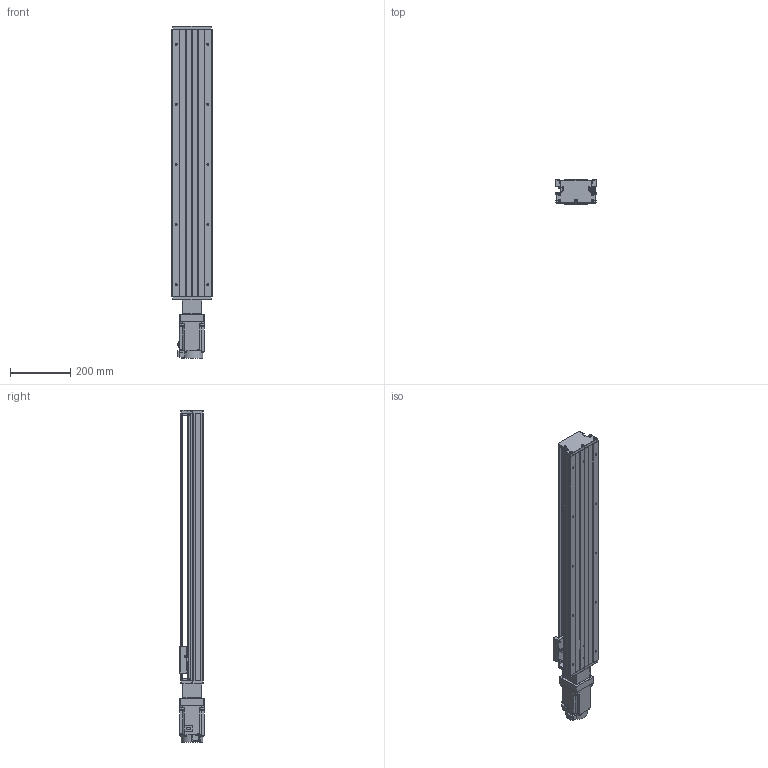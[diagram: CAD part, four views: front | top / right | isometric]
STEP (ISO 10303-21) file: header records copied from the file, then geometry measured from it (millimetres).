
FILE_DESCRIPTION (( 'STEP AP203' ), '1' );
FILE_NAME ('KTH130-750-BC-M75-C4.step', '2023-06-30T04:18:43', ( '微软用户' ), ( '微软中国' ), 'SwSTEP 2.0', 'SolidWorks 2020', '' );
FILE_SCHEMA (( 'CONFIG_CONTROL_DESIGN' ));
Length unit declared in the file: millimetre
Products named in the file (19): CTHA86-006-1_M75; KTH130-002_KTH130-002; EE_SX911P_R; CTHA86-013; KTH130-004; CTHA60-016; CTHA86-027-1; KTH130-005; GBT 70.1-M3℅5; hg-kn73j_-s100; GB1155-6X6; GBT77-2000 M3×3; KTH130-750-BC-M75-C4; GBT70.1 M5℅16; す晦芛蹟隊 M3℅5; GBT 70.2-M3¡Á5_M3¡Á6; GBT 70.3-M3℅8; GTH14-001_750; CTHA60-017
Assembly tree (52 placements, depth 2):
  KTH130-750-BC-M75-C4
    GTH14-001_750
    KTH130-002_KTH130-002
    KTH130-004
    KTH130-005
    GB1155-6X6  x2
    GBT70.1 M5℅16  x10
    GBT 70.2-M3¡Á5_M3¡Á6  x4
    CTHA60-017  x3
    EE_SX911P_R  x3
    CTHA60-016  x2
    GBT 70.1-M3℅5  x6
    GBT77-2000 M3×3  x6
    す晦芛蹟隊 M3℅5  x2
    GBT 70.3-M3℅8  x6
    CTHA86-006-1_M75
    CTHA86-013
    CTHA86-027-1
    hg-kn73j_-s100
Bounding box: 135 x 80.44 x 1103.2 mm (x, y, z)
Volume: 5928623.6 mm3; surface area: 867562.3 mm2
Topology: 55 solids, 55 shells, 2260 faces, 5432 edges, 3383 vertices
Faces by surface type: plane 1242, cylinder 622, cone 280, torus 104, sphere 12
Entity records: 40154 total; most frequent: CARTESIAN_POINT 6631, DIRECTION 6611, ORIENTED_EDGE 6148, EDGE_CURVE 3074, AXIS2_PLACEMENT_3D 2299, LINE 2013, VECTOR 2013, VERTEX_POINT 1955
